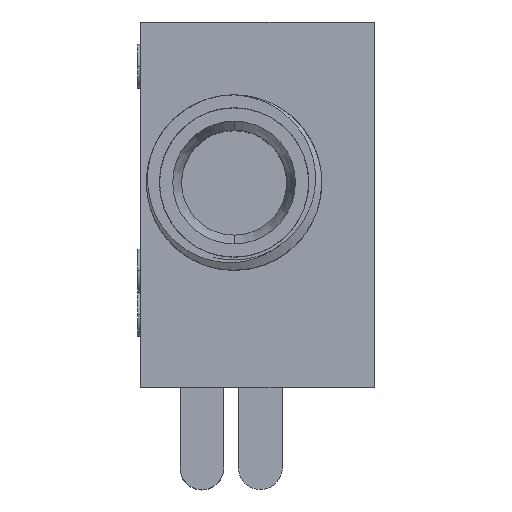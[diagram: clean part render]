
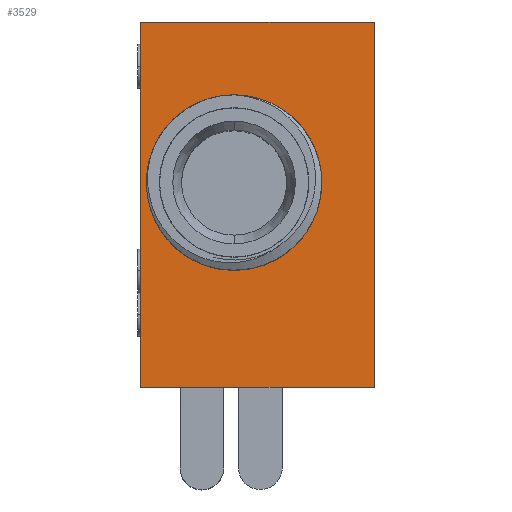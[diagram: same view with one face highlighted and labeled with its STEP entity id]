
A CAD part, top view. The second image highlights one B-rep face of the part: STEP entity #3529.
In plain terms, the highlighted planar face has unit normal (0, 0, 1).
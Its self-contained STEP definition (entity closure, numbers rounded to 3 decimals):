
#52 = ORIENTED_EDGE ( 'NONE', *, *, #630, .T. ) ;
#89 = CARTESIAN_POINT ( 'NONE',  ( -3.2, -7., 0. ) ) ;
#137 = ORIENTED_EDGE ( 'NONE', *, *, #1453, .T. ) ;
#140 = CARTESIAN_POINT ( 'NONE',  ( 4.8, 5.5, 0. ) ) ;
#148 = CARTESIAN_POINT ( 'NONE',  ( -3.2, 5.5, 0. ) ) ;
#200 = DIRECTION ( 'NONE',  ( 0., 0., 1. ) ) ;
#292 = EDGE_CURVE ( 'NONE', #3602, #3122, #2344, .T. ) ;
#490 = DIRECTION ( 'NONE',  ( 1., 0., 0. ) ) ;
#496 = LINE ( 'NONE', #798, #3203 ) ;
#545 = VERTEX_POINT ( 'NONE', #2015 ) ;
#591 = ORIENTED_EDGE ( 'NONE', *, *, #660, .T. ) ;
#622 = VERTEX_POINT ( 'NONE', #1062 ) ;
#630 = EDGE_CURVE ( 'NONE', #3329, #622, #496, .T. ) ;
#634 = VERTEX_POINT ( 'NONE', #148 ) ;
#660 = EDGE_CURVE ( 'NONE', #634, #545, #3472, .T. ) ;
#766 = DIRECTION ( 'NONE',  ( 1., 0., 0. ) ) ;
#777 = ORIENTED_EDGE ( 'NONE', *, *, #2497, .T. ) ;
#798 = CARTESIAN_POINT ( 'NONE',  ( 4.8, -7., 0. ) ) ;
#835 = DIRECTION ( 'NONE',  ( 0., 0., -1. ) ) ;
#840 = EDGE_LOOP ( 'NONE', ( #52, #777, #591, #2958 ) ) ;
#888 = VECTOR ( 'NONE', #2398, 1000. ) ;
#1060 = EDGE_CURVE ( 'NONE', #2017, #3602, #3417, .T. ) ;
#1062 = CARTESIAN_POINT ( 'NONE',  ( 4.8, 5.5, 0. ) ) ;
#1289 = VECTOR ( 'NONE', #3451, 1000. ) ;
#1293 = CIRCLE ( 'NONE', #1296, 3. ) ;
#1296 = AXIS2_PLACEMENT_3D ( 'NONE', #3243, #835, #490 ) ;
#1453 = EDGE_CURVE ( 'NONE', #3122, #2017, #1293, .T. ) ;
#1538 = PLANE ( 'NONE',  #2441 ) ;
#1569 = AXIS2_PLACEMENT_3D ( 'NONE', #1730, #3387, #3027 ) ;
#1663 = CARTESIAN_POINT ( 'NONE',  ( -3., 0., 0. ) ) ;
#1730 = CARTESIAN_POINT ( 'NONE',  ( 0., 0., 0. ) ) ;
#1737 = CARTESIAN_POINT ( 'NONE',  ( 0., 0., 0. ) ) ;
#1815 = CARTESIAN_POINT ( 'NONE',  ( -3.2, 5.5, 0. ) ) ;
#2015 = CARTESIAN_POINT ( 'NONE',  ( -3.2, -7., 0. ) ) ;
#2017 = VERTEX_POINT ( 'NONE', #3193 ) ;
#2048 = DIRECTION ( 'NONE',  ( -1., 0., 0. ) ) ;
#2132 = ORIENTED_EDGE ( 'NONE', *, *, #292, .T. ) ;
#2150 = DIRECTION ( 'NONE',  ( 0., 1., 0. ) ) ;
#2218 = FACE_OUTER_BOUND ( 'NONE', #840, .T. ) ;
#2225 = VECTOR ( 'NONE', #2048, 1000. ) ;
#2344 = CIRCLE ( 'NONE', #1569, 3. ) ;
#2398 = DIRECTION ( 'NONE',  ( 1., 0., 0. ) ) ;
#2421 = EDGE_CURVE ( 'NONE', #545, #3329, #3105, .T. ) ;
#2441 = AXIS2_PLACEMENT_3D ( 'NONE', #2592, #200, #4145 ) ;
#2469 = ORIENTED_EDGE ( 'NONE', *, *, #1060, .T. ) ;
#2497 = EDGE_CURVE ( 'NONE', #622, #634, #3153, .T. ) ;
#2566 = CARTESIAN_POINT ( 'NONE',  ( 0., 3., 0. ) ) ;
#2592 = CARTESIAN_POINT ( 'NONE',  ( 0., 0., 0. ) ) ;
#2958 = ORIENTED_EDGE ( 'NONE', *, *, #2421, .T. ) ;
#3027 = DIRECTION ( 'NONE',  ( 1., 0., 0. ) ) ;
#3058 = DIRECTION ( 'NONE',  ( 0., 0., -1. ) ) ;
#3105 = LINE ( 'NONE', #89, #888 ) ;
#3122 = VERTEX_POINT ( 'NONE', #2566 ) ;
#3153 = LINE ( 'NONE', #140, #2225 ) ;
#3193 = CARTESIAN_POINT ( 'NONE',  ( 3., 0., 0. ) ) ;
#3203 = VECTOR ( 'NONE', #2150, 1000. ) ;
#3243 = CARTESIAN_POINT ( 'NONE',  ( 0., 0., 0. ) ) ;
#3268 = CARTESIAN_POINT ( 'NONE',  ( 4.8, -7., 0. ) ) ;
#3329 = VERTEX_POINT ( 'NONE', #3268 ) ;
#3387 = DIRECTION ( 'NONE',  ( 0., 0., -1. ) ) ;
#3417 = CIRCLE ( 'NONE', #4318, 3. ) ;
#3451 = DIRECTION ( 'NONE',  ( 0., -1., 0. ) ) ;
#3472 = LINE ( 'NONE', #1815, #1289 ) ;
#3529 = ADVANCED_FACE ( 'NONE', ( #2218, #3567 ), #1538, .T. ) ;
#3567 = FACE_BOUND ( 'NONE', #4338, .T. ) ;
#3602 = VERTEX_POINT ( 'NONE', #1663 ) ;
#4145 = DIRECTION ( 'NONE',  ( 1., 0., 0. ) ) ;
#4318 = AXIS2_PLACEMENT_3D ( 'NONE', #1737, #3058, #766 ) ;
#4338 = EDGE_LOOP ( 'NONE', ( #137, #2469, #2132 ) ) ;
